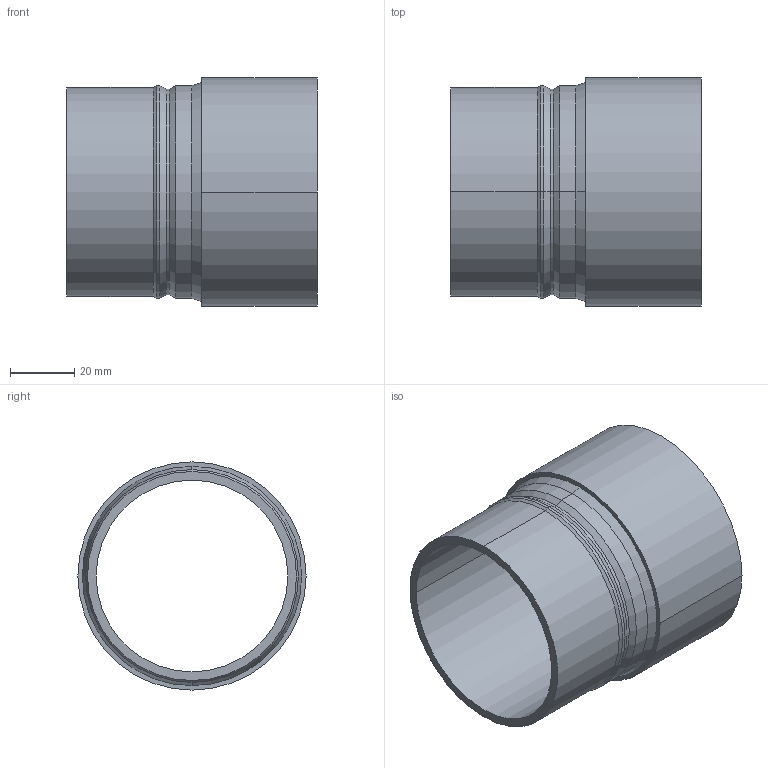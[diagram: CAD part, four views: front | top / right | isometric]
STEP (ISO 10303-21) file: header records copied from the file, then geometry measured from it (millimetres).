
FILE_DESCRIPTION (( 'STEP AP214' ), '1' );
FILE_NAME ('BR606.50 DR 60.STEP', '2020-12-02T14:15:42', ( '' ), ( '' ), 'SwSTEP 2.0', 'SolidWorks 2018', '' );
FILE_SCHEMA (( 'AUTOMOTIVE_DESIGN' ));
Length unit declared in the file: millimetre
Products named in the file (1): BR606.50 DR 60
Bounding box: 78 x 71 x 71 mm (x, y, z)
Volume: 65620 mm3; surface area: 33452.6 mm2
Topology: 1 solids, 1 shells, 23 faces, 46 edges, 26 vertices
Faces by surface type: cylinder 12, cone 8, plane 3
Entity records: 632 total; most frequent: DIRECTION 120, CARTESIAN_POINT 96, ORIENTED_EDGE 92, AXIS2_PLACEMENT_3D 50, EDGE_CURVE 46, CIRCLE 26, EDGE_LOOP 26, VERTEX_POINT 26
